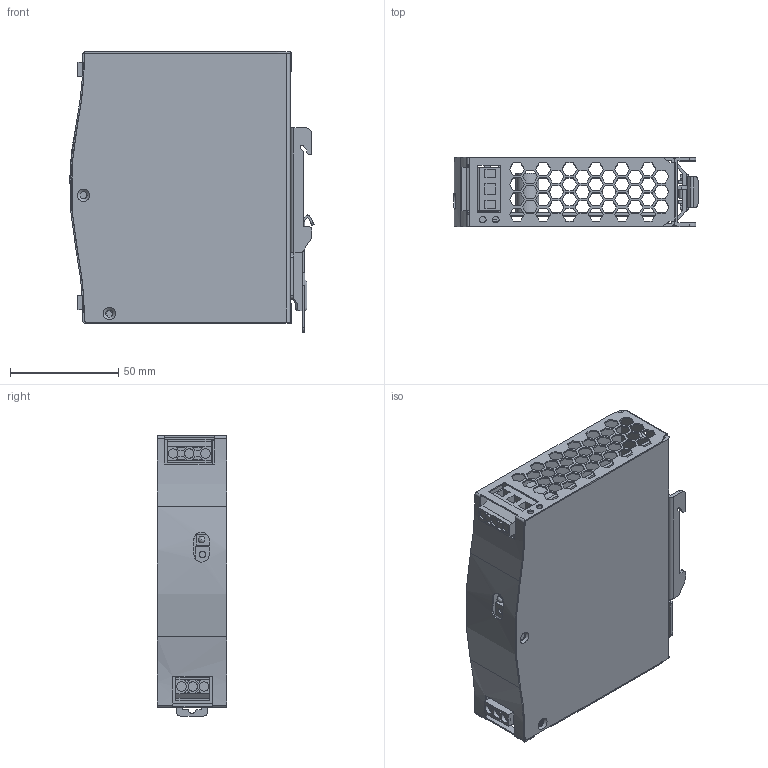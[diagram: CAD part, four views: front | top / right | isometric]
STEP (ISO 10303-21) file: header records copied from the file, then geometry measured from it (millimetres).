
FILE_DESCRIPTION((''),'2;1');
FILE_NAME('C:\Users\shirley\Desktop\DIN RAIL\NDR-75-3D.stp','2020-08-10T15:55:04',('shirley'),(''),'Autodesk Inventor 2010','Autodesk Inventor 2010','');
FILE_SCHEMA(('AUTOMOTIVE_DESIGN { 1 0 10303 214 1 1 1 1 }'));
Length unit declared in the file: millimetre
Products named in the file (15): NDR-75; PCB1; ©³®y; PCB2; ºÝ¤l; ºÝ¤l.1; LED; VR; pcb2; 掛座小; f; p3; p1
Assembly tree (14 placements, depth 3):
  NDR-75
    PCB1
      PCB1
    ©³®y
    (unnamed)
    PCB2
      ºÝ¤l
      ºÝ¤l.1
      LED
      VR
      pcb2
    掛座小
      f
      p3
      p1
Bounding box: 112.66 x 32 x 129.21 mm (x, y, z)
Volume: 87070.8 mm3; surface area: 118418.2 mm2
Topology: 11 solids, 11 shells, 1163 faces, 3304 edges, 2189 vertices
Faces by surface type: plane 945, cylinder 195, cone 14, torus 8, bspline 1
Full cylindrical faces by diameter (mm): 2.65 x4, 3 x4, 3.37 x1, 3.4 x4, 3.5 x5, 4 x2, 4.27 x3, 4.3 x6, 10.421 x1, 10.455 x1, 10.5 x1, 10.569 x1
Entity records: 38980 total; most frequent: CARTESIAN_POINT 7477, ORIENTED_EDGE 6510, DIRECTION 6063, EDGE_CURVE 3255, VECTOR 2817, LINE 2817, VERTEX_POINT 2188, AXIS2_PLACEMENT_3D 1623
